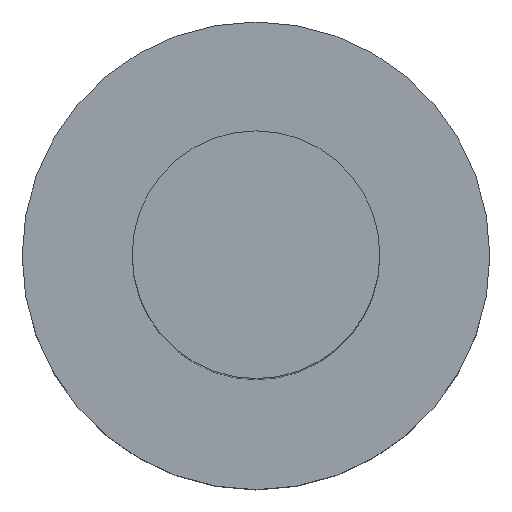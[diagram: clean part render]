
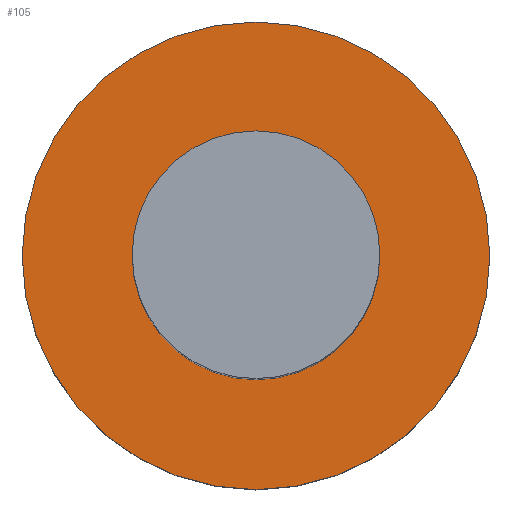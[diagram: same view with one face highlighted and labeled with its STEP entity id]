
A CAD part, top view. The second image highlights one B-rep face of the part: STEP entity #105.
In plain terms, the highlighted planar face has unit normal (0, 0, 1).
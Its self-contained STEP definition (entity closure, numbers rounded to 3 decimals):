
#21 = EDGE_CURVE('',#22,#22,#24,.T.);
#22 = VERTEX_POINT('',#23);
#23 = CARTESIAN_POINT('',(25.85,-38.,7.));
#24 = SURFACE_CURVE('',#25,(#30,#42),.PCURVE_S1.);
#25 = CIRCLE('',#26,1.85);
#26 = AXIS2_PLACEMENT_3D('',#27,#28,#29);
#27 = CARTESIAN_POINT('',(24.,-38.,7.));
#28 = DIRECTION('',(0.,0.,1.));
#29 = DIRECTION('',(1.,0.,-0.));
#30 = PCURVE('',#31,#36);
#31 = CYLINDRICAL_SURFACE('',#32,1.85);
#32 = AXIS2_PLACEMENT_3D('',#33,#34,#35);
#33 = CARTESIAN_POINT('',(24.,-38.,5.6));
#34 = DIRECTION('',(0.,0.,1.));
#35 = DIRECTION('',(1.,0.,-0.));
#36 = DEFINITIONAL_REPRESENTATION('',(#37),#41);
#37 = LINE('',#38,#39);
#38 = CARTESIAN_POINT('',(0.,1.4));
#39 = VECTOR('',#40,1.);
#40 = DIRECTION('',(1.,0.));
#41 = ( GEOMETRIC_REPRESENTATION_CONTEXT(2) 
PARAMETRIC_REPRESENTATION_CONTEXT() REPRESENTATION_CONTEXT('2D SPACE',''
  ) );
#42 = PCURVE('',#43,#48);
#43 = PLANE('',#44);
#44 = AXIS2_PLACEMENT_3D('',#45,#46,#47);
#45 = CARTESIAN_POINT('',(24.,-38.,7.));
#46 = DIRECTION('',(0.,0.,1.));
#47 = DIRECTION('',(1.,0.,-0.));
#48 = DEFINITIONAL_REPRESENTATION('',(#49),#53);
#49 = CIRCLE('',#50,1.85);
#50 = AXIS2_PLACEMENT_2D('',#51,#52);
#51 = CARTESIAN_POINT('',(0.,0.));
#52 = DIRECTION('',(1.,0.));
#53 = ( GEOMETRIC_REPRESENTATION_CONTEXT(2) 
PARAMETRIC_REPRESENTATION_CONTEXT() REPRESENTATION_CONTEXT('2D SPACE',''
  ) );
#105 = ADVANCED_FACE('',(#106,#109),#43,.T.);
#106 = FACE_BOUND('',#107,.T.);
#107 = EDGE_LOOP('',(#108));
#108 = ORIENTED_EDGE('',*,*,#21,.T.);
#109 = FACE_BOUND('',#110,.T.);
#110 = EDGE_LOOP('',(#111));
#111 = ORIENTED_EDGE('',*,*,#112,.F.);
#112 = EDGE_CURVE('',#113,#113,#115,.T.);
#113 = VERTEX_POINT('',#114);
#114 = CARTESIAN_POINT('',(24.98,-38.,7.));
#115 = SURFACE_CURVE('',#116,(#121,#128),.PCURVE_S1.);
#116 = CIRCLE('',#117,0.98);
#117 = AXIS2_PLACEMENT_3D('',#118,#119,#120);
#118 = CARTESIAN_POINT('',(24.,-38.,7.));
#119 = DIRECTION('',(0.,0.,1.));
#120 = DIRECTION('',(1.,0.,-0.));
#121 = PCURVE('',#43,#122);
#122 = DEFINITIONAL_REPRESENTATION('',(#123),#127);
#123 = CIRCLE('',#124,0.98);
#124 = AXIS2_PLACEMENT_2D('',#125,#126);
#125 = CARTESIAN_POINT('',(0.,0.));
#126 = DIRECTION('',(1.,0.));
#127 = ( GEOMETRIC_REPRESENTATION_CONTEXT(2) 
PARAMETRIC_REPRESENTATION_CONTEXT() REPRESENTATION_CONTEXT('2D SPACE',''
  ) );
#128 = PCURVE('',#129,#134);
#129 = CYLINDRICAL_SURFACE('',#130,0.98);
#130 = AXIS2_PLACEMENT_3D('',#131,#132,#133);
#131 = CARTESIAN_POINT('',(24.,-38.,7.));
#132 = DIRECTION('',(0.,0.,1.));
#133 = DIRECTION('',(1.,0.,-0.));
#134 = DEFINITIONAL_REPRESENTATION('',(#135),#139);
#135 = LINE('',#136,#137);
#136 = CARTESIAN_POINT('',(0.,0.));
#137 = VECTOR('',#138,1.);
#138 = DIRECTION('',(1.,0.));
#139 = ( GEOMETRIC_REPRESENTATION_CONTEXT(2) 
PARAMETRIC_REPRESENTATION_CONTEXT() REPRESENTATION_CONTEXT('2D SPACE',''
  ) );
